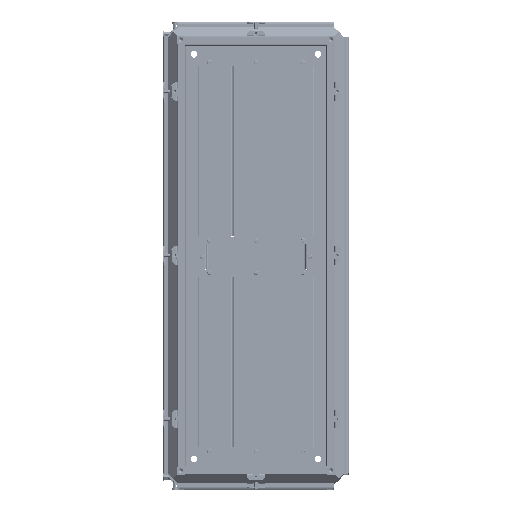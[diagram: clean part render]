
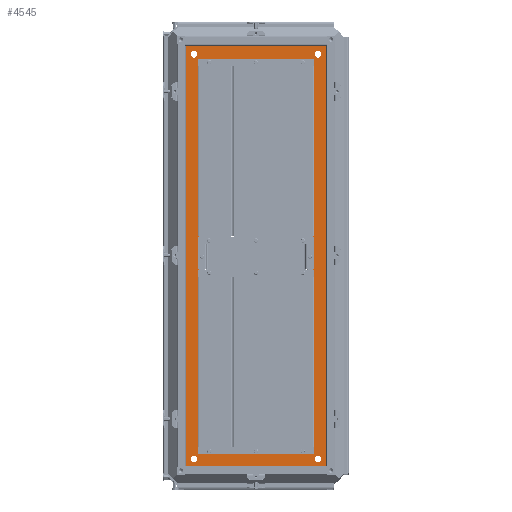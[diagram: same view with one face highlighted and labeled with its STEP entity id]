
A CAD part, top view. The second image highlights one B-rep face of the part: STEP entity #4545.
In plain terms, the highlighted planar face has unit normal (0, 0, 1).
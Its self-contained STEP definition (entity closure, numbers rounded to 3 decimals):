
#4545=ADVANCED_FACE('',(#17447,#17449,#17451,#17453,#17455,#17457),#17459,.F.);
#17447=FACE_BOUND('',#17448,.T.);
#17448=EDGE_LOOP('',(#117059,#117060,#117061,#117062));
#17449=FACE_BOUND('',#17450,.T.);
#17450=EDGE_LOOP('',(#117063,#117064,#117065,#117066));
#17451=FACE_BOUND('',#17452,.T.);
#17452=EDGE_LOOP('',(#117067));
#17453=FACE_BOUND('',#17454,.T.);
#17454=EDGE_LOOP('',(#117068));
#17455=FACE_BOUND('',#17456,.T.);
#17456=EDGE_LOOP('',(#117069));
#17457=FACE_BOUND('',#17458,.T.);
#17458=EDGE_LOOP('',(#117070));
#17459=PLANE('',#17460);
#17460=AXIS2_PLACEMENT_3D('',#17461,#17462,#17463);
#17461=CARTESIAN_POINT('',(0.,0.,-47.5));
#17462=DIRECTION('',(0.,0.,-1.));
#17463=DIRECTION('',(0.,1.,0.));
#117059=ORIENTED_EDGE('',*,*,#177145,.F.);
#117060=ORIENTED_EDGE('',*,*,#177146,.F.);
#117061=ORIENTED_EDGE('',*,*,#177147,.T.);
#117062=ORIENTED_EDGE('',*,*,#177148,.T.);
#117063=ORIENTED_EDGE('',*,*,#177149,.T.);
#117064=ORIENTED_EDGE('',*,*,#177150,.F.);
#117065=ORIENTED_EDGE('',*,*,#177151,.F.);
#117066=ORIENTED_EDGE('',*,*,#177152,.F.);
#117067=ORIENTED_EDGE('',*,*,#177153,.T.);
#117068=ORIENTED_EDGE('',*,*,#177154,.F.);
#117069=ORIENTED_EDGE('',*,*,#177155,.F.);
#117070=ORIENTED_EDGE('',*,*,#177156,.T.);
#177145=EDGE_CURVE('',#208104,#208105,#208106,.F.);
#177146=EDGE_CURVE('',#208107,#208104,#208108,.F.);
#177147=EDGE_CURVE('',#208107,#208109,#208110,.F.);
#177148=EDGE_CURVE('',#208109,#208105,#208111,.F.);
#177149=EDGE_CURVE('',#208112,#208113,#208114,.F.);
#177150=EDGE_CURVE('',#208115,#208113,#208116,.F.);
#177151=EDGE_CURVE('',#208117,#208115,#208118,.F.);
#177152=EDGE_CURVE('',#208112,#208117,#208119,.F.);
#177153=EDGE_CURVE('',#208120,#208120,#208121,.T.);
#177154=EDGE_CURVE('',#208122,#208122,#208123,.T.);
#177155=EDGE_CURVE('',#208124,#208124,#208125,.T.);
#177156=EDGE_CURVE('',#208126,#208126,#208127,.T.);
#208104=VERTEX_POINT('',#262021);
#208105=VERTEX_POINT('',#262022);
#208106=LINE('',#262023,#262024);
#208107=VERTEX_POINT('',#262026);
#208108=LINE('',#262027,#262028);
#208109=VERTEX_POINT('',#262030);
#208110=LINE('',#262031,#262032);
#208111=LINE('',#262034,#262035);
#208112=VERTEX_POINT('',#262037);
#208113=VERTEX_POINT('',#262038);
#208114=LINE('',#262039,#262040);
#208115=VERTEX_POINT('',#262042);
#208116=LINE('',#262043,#262044);
#208117=VERTEX_POINT('',#262046);
#208118=LINE('',#262047,#262048);
#208119=LINE('',#262050,#262051);
#208120=VERTEX_POINT('',#262053);
#208121=CIRCLE('',#262054,7.);
#208122=VERTEX_POINT('',#262058);
#208123=CIRCLE('',#262059,7.);
#208124=VERTEX_POINT('',#262063);
#208125=CIRCLE('',#262064,7.);
#208126=VERTEX_POINT('',#262068);
#208127=CIRCLE('',#262069,7.);
#262021=CARTESIAN_POINT('',(-1.6,1.6,-47.5));
#262022=CARTESIAN_POINT('',(-300.4,1.6,-47.5));
#262023=CARTESIAN_POINT('',(-300.4,1.6,-47.5));
#262024=VECTOR('',#262025,1.);
#262025=DIRECTION('',(1.,0.,0.));
#262026=CARTESIAN_POINT('',(-1.6,900.4,-47.5));
#262027=CARTESIAN_POINT('',(-1.6,1.6,-47.5));
#262028=VECTOR('',#262029,1.);
#262029=DIRECTION('',(0.,1.,0.));
#262030=CARTESIAN_POINT('',(-300.4,900.4,-47.5));
#262031=CARTESIAN_POINT('',(-300.4,900.4,-47.5));
#262032=VECTOR('',#262033,1.);
#262033=DIRECTION('',(1.,0.,0.));
#262034=CARTESIAN_POINT('',(-300.4,1.6,-47.5));
#262035=VECTOR('',#262036,1.);
#262036=DIRECTION('',(0.,1.,0.));
#262037=CARTESIAN_POINT('',(-39.4,39.4,-47.5));
#262038=CARTESIAN_POINT('',(-262.6,39.4,-47.5));
#262039=CARTESIAN_POINT('',(-262.6,39.4,-47.5));
#262040=VECTOR('',#262041,1.);
#262041=DIRECTION('',(1.,0.,0.));
#262042=CARTESIAN_POINT('',(-262.6,862.6,-47.5));
#262043=CARTESIAN_POINT('',(-262.6,39.4,-47.5));
#262044=VECTOR('',#262045,1.);
#262045=DIRECTION('',(0.,1.,0.));
#262046=CARTESIAN_POINT('',(-39.4,862.6,-47.5));
#262047=CARTESIAN_POINT('',(-262.6,862.6,-47.5));
#262048=VECTOR('',#262049,1.);
#262049=DIRECTION('',(1.,0.,0.));
#262050=CARTESIAN_POINT('',(-39.4,862.6,-47.5));
#262051=VECTOR('',#262052,1.);
#262052=DIRECTION('',(0.,-1.,0.));
#262053=CARTESIAN_POINT('',(-18.5,25.5,-47.5));
#262054=AXIS2_PLACEMENT_3D('',#262055,#262056,#262057);
#262055=CARTESIAN_POINT('',(-18.5,18.5,-47.5));
#262056=DIRECTION('',(0.,0.,-1.));
#262057=DIRECTION('',(0.,1.,0.));
#262058=CARTESIAN_POINT('',(-283.5,25.5,-47.5));
#262059=AXIS2_PLACEMENT_3D('',#262060,#262061,#262062);
#262060=CARTESIAN_POINT('',(-283.5,18.5,-47.5));
#262061=DIRECTION('',(0.,0.,1.));
#262062=DIRECTION('',(0.,1.,0.));
#262063=CARTESIAN_POINT('',(-18.5,876.5,-47.5));
#262064=AXIS2_PLACEMENT_3D('',#262065,#262066,#262067);
#262065=CARTESIAN_POINT('',(-18.5,883.5,-47.5));
#262066=DIRECTION('',(0.,0.,1.));
#262067=DIRECTION('',(0.,-1.,0.));
#262068=CARTESIAN_POINT('',(-283.5,876.5,-47.5));
#262069=AXIS2_PLACEMENT_3D('',#262070,#262071,#262072);
#262070=CARTESIAN_POINT('',(-283.5,883.5,-47.5));
#262071=DIRECTION('',(0.,0.,-1.));
#262072=DIRECTION('',(0.,-1.,0.));
